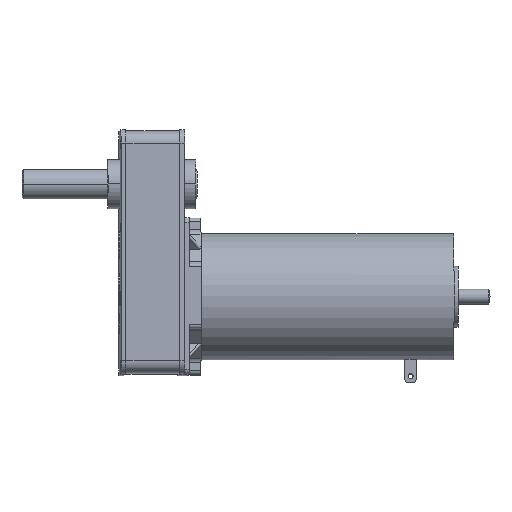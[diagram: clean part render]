
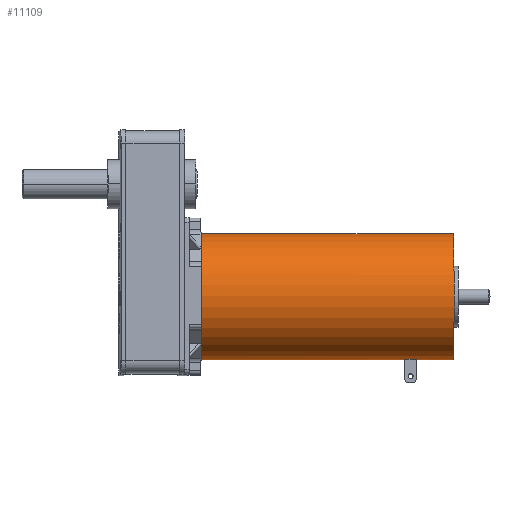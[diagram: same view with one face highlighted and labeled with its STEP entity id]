
A CAD part, top view. The second image highlights one B-rep face of the part: STEP entity #11109.
In plain terms, the highlighted cylindrical face has radius 25.8 mm (diameter 51.6 mm), a partial arc.
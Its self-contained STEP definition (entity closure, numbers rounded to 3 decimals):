
#38 = CARTESIAN_POINT ( 'NONE',  ( 25.8, 0., -30. ) ) ;
#178 = VERTEX_POINT ( 'NONE', #8028 ) ;
#388 = CARTESIAN_POINT ( 'NONE',  ( -25.8, 0., -30. ) ) ;
#449 = DIRECTION ( 'NONE',  ( 0., 0., 1. ) ) ;
#470 = EDGE_CURVE ( 'NONE', #13047, #7005, #4672, .T. ) ;
#526 = VERTEX_POINT ( 'NONE', #38 ) ;
#599 = VECTOR ( 'NONE', #14393, 1000. ) ;
#1144 = DIRECTION ( 'NONE',  ( 1., 0., 0. ) ) ;
#1622 = VECTOR ( 'NONE', #6984, 1000. ) ;
#1703 = CARTESIAN_POINT ( 'NONE',  ( 25.607, -3.15, 58.3 ) ) ;
#1930 = VERTEX_POINT ( 'NONE', #7379 ) ;
#2539 = DIRECTION ( 'NONE',  ( 0., 0., -1. ) ) ;
#2635 = ORIENTED_EDGE ( 'NONE', *, *, #12308, .T. ) ;
#2648 = ORIENTED_EDGE ( 'NONE', *, *, #10260, .F. ) ;
#3376 = DIRECTION ( 'NONE',  ( 0., 0., 1. ) ) ;
#3874 = VERTEX_POINT ( 'NONE', #13420 ) ;
#4076 = FACE_BOUND ( 'NONE', #14169, .T. ) ;
#4447 = FACE_OUTER_BOUND ( 'NONE', #6321, .T. ) ;
#4672 = LINE ( 'NONE', #7107, #10732 ) ;
#5415 = EDGE_CURVE ( 'NONE', #526, #1930, #10932, .T. ) ;
#5615 = EDGE_CURVE ( 'NONE', #178, #7005, #8068, .T. ) ;
#5869 = CARTESIAN_POINT ( 'NONE',  ( 25.693, -2.35, 58.3 ) ) ;
#6107 = EDGE_CURVE ( 'NONE', #12871, #3874, #13174, .T. ) ;
#6321 = EDGE_LOOP ( 'NONE', ( #10329, #2635, #9999, #6802 ) ) ;
#6345 = VECTOR ( 'NONE', #3376, 1000. ) ;
#6802 = ORIENTED_EDGE ( 'NONE', *, *, #7197, .T. ) ;
#6893 = CARTESIAN_POINT ( 'NONE',  ( 0., 0., 73.4 ) ) ;
#6984 = DIRECTION ( 'NONE',  ( 0., 0., 1. ) ) ;
#7005 = VERTEX_POINT ( 'NONE', #1703 ) ;
#7107 = CARTESIAN_POINT ( 'NONE',  ( 25.607, -3.15, 58.3 ) ) ;
#7197 = EDGE_CURVE ( 'NONE', #1930, #3874, #15535, .T. ) ;
#7286 = AXIS2_PLACEMENT_3D ( 'NONE', #9784, #2539, #11028 ) ;
#7301 = ORIENTED_EDGE ( 'NONE', *, *, #470, .T. ) ;
#7379 = CARTESIAN_POINT ( 'NONE',  ( 25.8, 0., 73.4 ) ) ;
#7723 = CARTESIAN_POINT ( 'NONE',  ( 0., 0., -30. ) ) ;
#7971 = CARTESIAN_POINT ( 'NONE',  ( 25.607, -3.15, 53.5 ) ) ;
#8028 = CARTESIAN_POINT ( 'NONE',  ( 25.693, -2.35, 58.3 ) ) ;
#8068 = CIRCLE ( 'NONE', #7286, 25.8 ) ;
#8122 = DIRECTION ( 'NONE',  ( 1., 0., 0. ) ) ;
#8220 = AXIS2_PLACEMENT_3D ( 'NONE', #7723, #449, #8964 ) ;
#8222 = CARTESIAN_POINT ( 'NONE',  ( -25.8, 0., 58.3 ) ) ;
#8430 = DIRECTION ( 'NONE',  ( 0., 0., 1. ) ) ;
#8443 = CIRCLE ( 'NONE', #8220, 25.8 ) ;
#8718 = EDGE_CURVE ( 'NONE', #178, #14856, #9920, .T. ) ;
#8857 = CARTESIAN_POINT ( 'NONE',  ( 25.693, -2.35, 53.5 ) ) ;
#8964 = DIRECTION ( 'NONE',  ( 1., 0., 0. ) ) ;
#9008 = CYLINDRICAL_SURFACE ( 'NONE', #14461, 25.8 ) ;
#9403 = AXIS2_PLACEMENT_3D ( 'NONE', #15800, #8430, #1144 ) ;
#9784 = CARTESIAN_POINT ( 'NONE',  ( 0., 0., 58.3 ) ) ;
#9920 = LINE ( 'NONE', #5869, #599 ) ;
#9999 = ORIENTED_EDGE ( 'NONE', *, *, #5415, .T. ) ;
#10260 = EDGE_CURVE ( 'NONE', #13047, #14856, #14213, .T. ) ;
#10329 = ORIENTED_EDGE ( 'NONE', *, *, #6107, .F. ) ;
#10610 = CARTESIAN_POINT ( 'NONE',  ( 0., 0., 58.3 ) ) ;
#10732 = VECTOR ( 'NONE', #14486, 1000. ) ;
#10932 = LINE ( 'NONE', #14297, #1622 ) ;
#10980 = ORIENTED_EDGE ( 'NONE', *, *, #8718, .T. ) ;
#11028 = DIRECTION ( 'NONE',  ( 1., 0., 0. ) ) ;
#11109 = ADVANCED_FACE ( 'NONE', ( #4447, #4076 ), #9008, .T. ) ;
#11409 = ORIENTED_EDGE ( 'NONE', *, *, #5615, .F. ) ;
#12308 = EDGE_CURVE ( 'NONE', #12871, #526, #8443, .T. ) ;
#12871 = VERTEX_POINT ( 'NONE', #388 ) ;
#13047 = VERTEX_POINT ( 'NONE', #7971 ) ;
#13174 = LINE ( 'NONE', #8222, #6345 ) ;
#13420 = CARTESIAN_POINT ( 'NONE',  ( -25.8, 0., 73.4 ) ) ;
#14169 = EDGE_LOOP ( 'NONE', ( #7301, #11409, #10980, #2648 ) ) ;
#14213 = CIRCLE ( 'NONE', #9403, 25.8 ) ;
#14267 = DIRECTION ( 'NONE',  ( 0., 0., 1. ) ) ;
#14297 = CARTESIAN_POINT ( 'NONE',  ( 25.8, 0., 58.3 ) ) ;
#14393 = DIRECTION ( 'NONE',  ( 0., 0., -1. ) ) ;
#14461 = AXIS2_PLACEMENT_3D ( 'NONE', #10610, #14267, #15573 ) ;
#14486 = DIRECTION ( 'NONE',  ( 0., 0., 1. ) ) ;
#14856 = VERTEX_POINT ( 'NONE', #8857 ) ;
#15150 = AXIS2_PLACEMENT_3D ( 'NONE', #6893, #15470, #8122 ) ;
#15470 = DIRECTION ( 'NONE',  ( 0., 0., -1. ) ) ;
#15535 = CIRCLE ( 'NONE', #15150, 25.8 ) ;
#15573 = DIRECTION ( 'NONE',  ( 1., 0., 0. ) ) ;
#15800 = CARTESIAN_POINT ( 'NONE',  ( 0., 0., 53.5 ) ) ;
